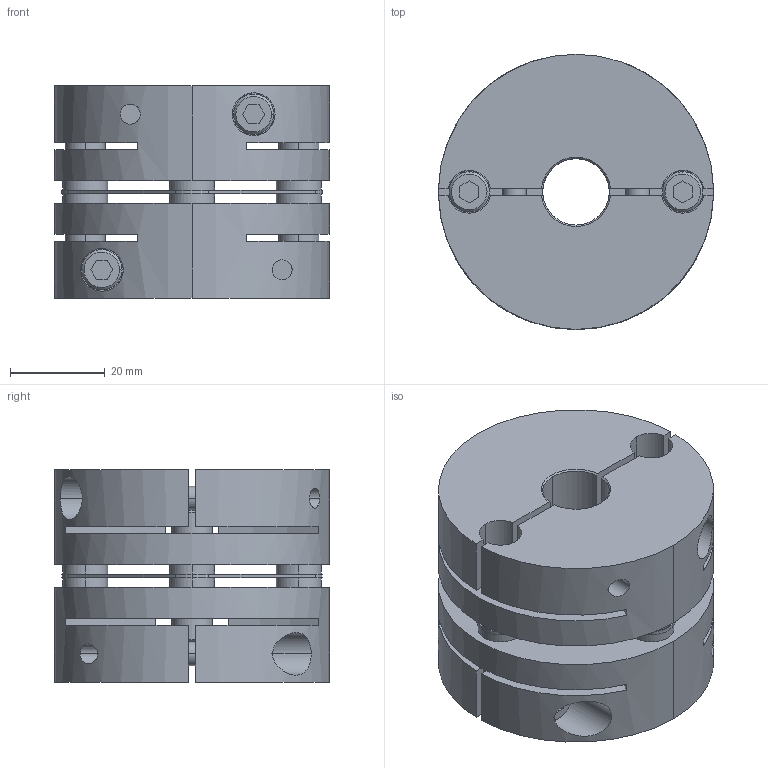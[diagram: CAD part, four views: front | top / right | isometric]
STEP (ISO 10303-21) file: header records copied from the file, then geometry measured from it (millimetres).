
FILE_DESCRIPTION((''),'2;1');
FILE_NAME('LAS-58C-14×18.stp','2015-10-15T14:45:12',(''),(''),'AutoCAD STEP 2000i','AutoCAD 2000i',', , ');
FILE_SCHEMA(('CONFIG_CONTROL_DESIGN'));
Length unit declared in the file: millimetre
Products named in the file (6): LAS-58C-12×19; 忣兜1; LA-5802-D19; LA-5802-D12-1; LA-5802-D12; LAS58-ITA
Assembly tree (5 placements, depth 2):
  LAS-58C-12×19
    忣兜1
    LA-5802-D19
    LA-5802-D12-1
    LA-5802-D12
    LAS58-ITA
Bounding box: 58 x 58 x 44.8 mm (x, y, z)
Volume: 88158.9 mm3; surface area: 33416.7 mm2
Topology: 1 solids, 1 shells, 238 faces, 618 edges, 404 vertices
Faces by surface type: plane 114, cylinder 96, cone 28
Entity records: 8213 total; most frequent: CARTESIAN_POINT 1988, DIRECTION 1316, ORIENTED_EDGE 1240, EDGE_CURVE 620, AXIS2_PLACEMENT_3D 484, VERTEX_POINT 404, VECTOR 348, LINE 348
